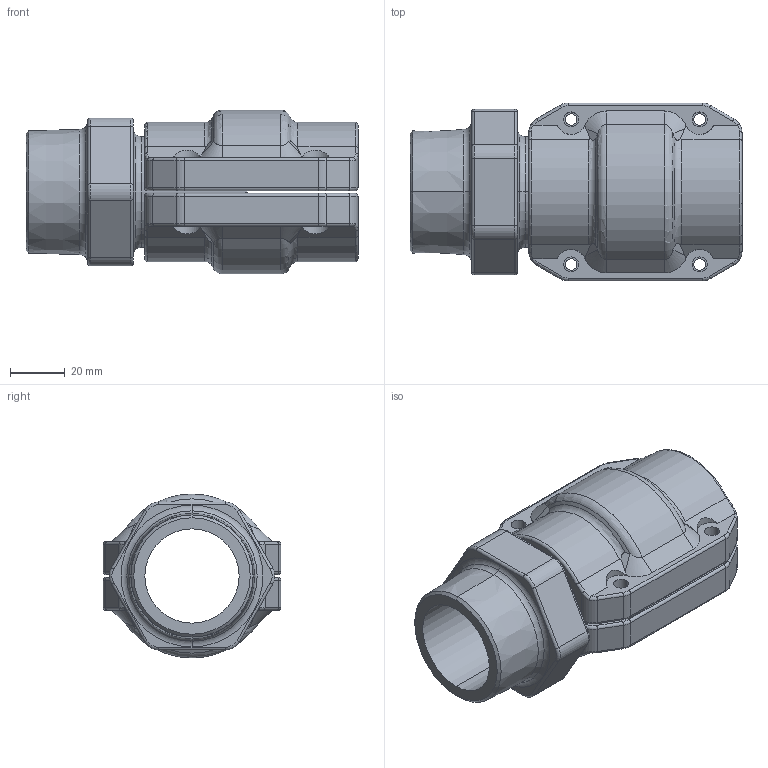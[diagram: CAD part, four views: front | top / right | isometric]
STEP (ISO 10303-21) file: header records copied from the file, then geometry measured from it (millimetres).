
FILE_DESCRIPTION((''),'2;1');
FILE_NAME('AU15441799_ASM_5_ASM_1_ASM_1_ASM','2017-05-16T',('Administrator'),(''),'PRO/ENGINEER BY PARAMETRIC TECHNOLOGY CORPORATION, 2009360','PRO/ENGINEER BY PARAMETRIC TECHNOLOGY CORPORATION, 2009360','');
FILE_SCHEMA(('AUTOMOTIVE_DESIGN_CC2 { 1 2 10303 214 -1 1 5 2 }'));
Length unit declared in the file: millimetre
Products named in the file (5): AU15441700_1_1_1; 201540020001_1_1_1; 201540020000_1_1_1; 2015400200_ASM_1_ASM_1_ASM_1_ASM; AU15441799_ASM_5_ASM_1_ASM_1_ASM
Assembly tree (4 placements, depth 3):
  AU15441799_ASM_5_ASM_1_ASM_1_ASM
    AU15441700_1_1_1
    2015400200_ASM_1_ASM_1_ASM_1_ASM
      201540020001_1_1_1
      201540020000_1_1_1
Bounding box: 121.4 x 65 x 59.9 mm (x, y, z)
Volume: 154832.6 mm3; surface area: 53748.6 mm2
Topology: 3 solids, 3 shells, 272 faces, 695 edges, 423 vertices
Faces by surface type: cylinder 114, torus 72, plane 46, bspline 24, cone 8, sphere 8
Entity records: 11804 total; most frequent: CARTESIAN_POINT 3067, DIRECTION 1432, ORIENTED_EDGE 1374, PRESENTATION_STYLE_ASSIGNMENT 690, STYLED_ITEM 690, CURVE_STYLE 687, EDGE_CURVE 687, AXIS2_PLACEMENT_3D 606
